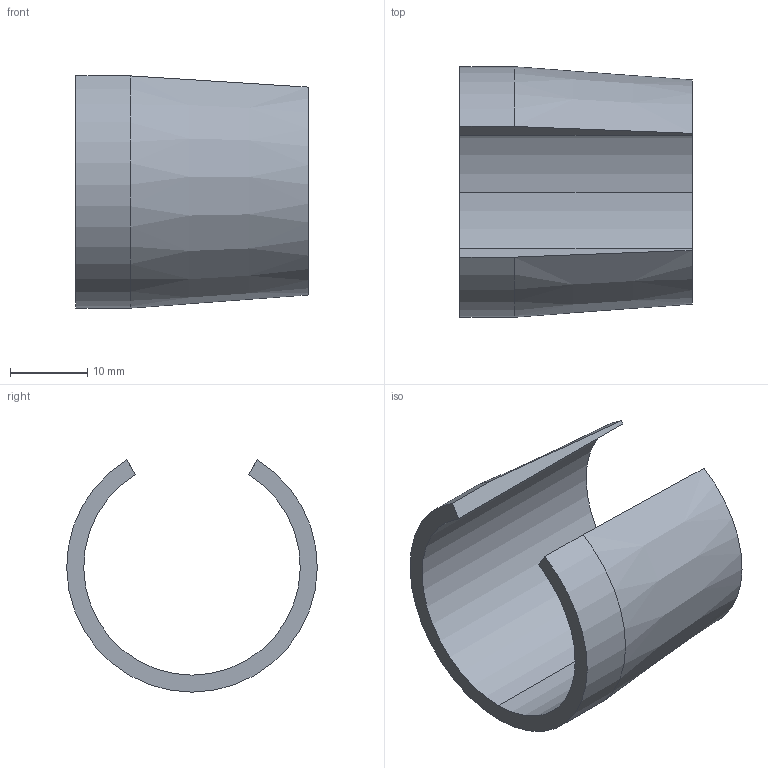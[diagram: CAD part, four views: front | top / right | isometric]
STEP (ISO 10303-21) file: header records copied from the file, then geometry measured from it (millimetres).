
FILE_DESCRIPTION (( 'STEP AP214' ), '1' );
FILE_NAME ('PJ-509.STEP', '2023-09-12T11:16:42', ( 'catia' ), ( 'HP Inc.' ), 'SwSTEP 2.0', 'SolidWorks 2021', '' );
FILE_SCHEMA (( 'AUTOMOTIVE_DESIGN' ));
Length unit declared in the file: millimetre
Products named in the file (1): PJ-509
Bounding box: 30 x 32.4 x 30.02 mm (x, y, z)
Volume: 3583.5 mm3; surface area: 4904.4 mm2
Topology: 1 solids, 1 shells, 9 faces, 21 edges, 14 vertices
Faces by surface type: cylinder 4, plane 4, cone 1
Entity records: 298 total; most frequent: DIRECTION 50, CARTESIAN_POINT 45, ORIENTED_EDGE 42, EDGE_CURVE 21, AXIS2_PLACEMENT_3D 19, VERTEX_POINT 14, VECTOR 12, LINE 12
